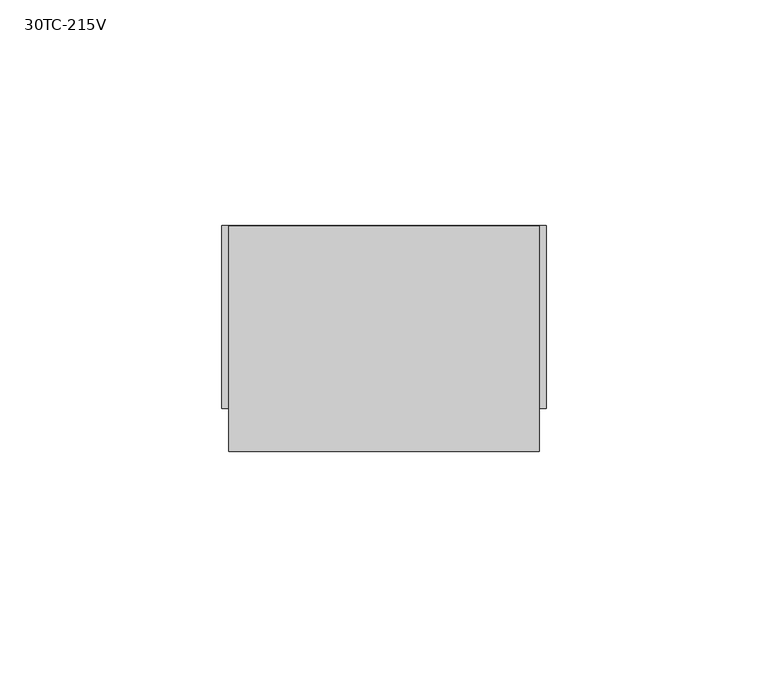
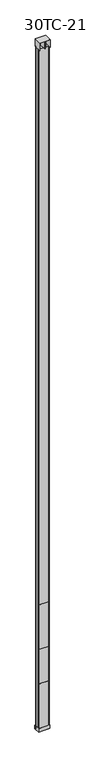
"""IFC4 building model written with IfcOpenShell, lengths in millimetres: proxy geometry, Vertical_Drop_Pole-Wiremold-Blank_Steel_Pole_Single_Compartment : 30TC-215V."""

import ifcopenshell
import ifcopenshell.guid

model = None  # the IFC model being written
_history = None  # IfcOwnerHistory: only IFC2X3 demands one
_inside = {}  # id of a spatial element -> (the spatial element, [elements in it])
_under = {}  # id of a project, library or spatial element -> (it, [spatial elements below it])
_declared = {}  # id of a project -> (the project, [libraries it declares])
_typed = {}  # id of a type object -> (the type object, [elements of that type])
_made_of = {}  # id of a material, layer set ... -> (it, [elements and type objects made of it])


def new_model(schema):
    """Start an empty IFC model of exactly this schema.

    Asked for "IFC4X3", IfcOpenShell would pick the latest addendum, in which some entities
    have other attributes; the version numbers below select the first issue.
    IFC2X3 requires an IfcOwnerHistory on every rooted entity: one is made here for all.
    """
    global model, _history
    if schema == "IFC4X3":
        model = ifcopenshell.file(schema_version=(4, 3, 0, 0))
    else:
        model = ifcopenshell.file(schema=schema)
    _inside.clear()
    _under.clear()
    _declared.clear()
    _typed.clear()
    _made_of.clear()
    _history = None
    if model.schema == "IFC2X3":
        org = make("IfcOrganization", Name="unknown")
        user = make(
            "IfcPersonAndOrganization",
            ThePerson=make("IfcPerson", FamilyName="unknown"),
            TheOrganization=org,
        )
        app = make(
            "IfcApplication",
            ApplicationDeveloper=org,
            Version="unknown",
            ApplicationFullName="unknown",
            ApplicationIdentifier="unknown",
        )
        _history = make(
            "IfcOwnerHistory",
            OwningUser=user,
            OwningApplication=app,
            ChangeAction="ADDED",
            CreationDate=0,
        )
    return model


def make(cls, **values):
    """One entity of the class cls with the attributes given. An attribute that is None is left unset."""
    return model.create_entity(
        cls, **{name: value for name, value in values.items() if value is not None}
    )


def rooted(cls, **values):
    """An entity with a GlobalId (a new one), such as an element, a storey or a relation."""
    return make(cls, GlobalId=ifcopenshell.guid.new(), OwnerHistory=_history, **values)


def si_unit(unit_type, name, prefix=None):
    """IfcSIUnit, for example si_unit("LENGTHUNIT", "METRE", prefix="MILLI")."""
    return make("IfcSIUnit", UnitType=unit_type, Prefix=prefix, Name=name)


def assignment(units):
    """IfcUnitAssignment: the units of a project."""
    return None if units is None else make("IfcUnitAssignment", Units=units)


def point(xyz):
    """IfcCartesianPoint."""
    return None if xyz is None else make("IfcCartesianPoint", Coordinates=xyz)


def direction(xyz):
    """IfcDirection."""
    return None if xyz is None else make("IfcDirection", DirectionRatios=xyz)


def frame(location, z_axis=None, x_axis=None):
    """IfcAxis2Placement3D, a coordinate frame: its origin and axes. An axis left out is left unset."""
    return make(
        "IfcAxis2Placement3D",
        Location=point(location),
        Axis=direction(z_axis),
        RefDirection=direction(x_axis),
    )


def frame_2d(location, x_axis=None):
    """IfcAxis2Placement2D, a coordinate frame in the plane: its origin and x axis."""
    return make(
        "IfcAxis2Placement2D", Location=point(location), RefDirection=direction(x_axis)
    )


def origin():
    """The frame at (0, 0, 0) with its axes left unset."""
    return frame((0.0, 0.0, 0.0))


def origin_with_axes():
    """The frame at (0, 0, 0) with the z axis (0, 0, 1) and the x axis (1, 0, 0) written out."""
    return frame((0.0, 0.0, 0.0), z_axis=(0.0, 0.0, 1.0), x_axis=(1.0, 0.0, 0.0))


def place(relative_to, where):
    """IfcLocalPlacement: puts the frame where relative to a parent placement (None: the world)."""
    return make(
        "IfcLocalPlacement", PlacementRelTo=relative_to, RelativePlacement=where
    )


def context(
    kind, dimensions, precision=None, world=None, true_north=None, identifier=None
):
    """IfcGeometricRepresentationContext, for example the 3D "Model" context."""
    return make(
        "IfcGeometricRepresentationContext",
        ContextIdentifier=identifier,
        ContextType=kind,
        CoordinateSpaceDimension=dimensions,
        Precision=precision,
        WorldCoordinateSystem=world,
        TrueNorth=true_north,
    )


def project(units=None, contexts=None):
    """IfcProject with its units and contexts."""
    return rooted(
        "IfcProject",
        Name="project",
        RepresentationContexts=contexts,
        UnitsInContext=assignment(units),
    )


def spatial(cls, under=None, at=None, **own):
    """A site, building, storey or space (cls), placed at a placement, below another one or the project."""
    s = rooted(cls, ObjectPlacement=at, **own)
    if under is not None:
        _under.setdefault(under.id(), (under, []))[1].append(s)
    return s


def polyline(points):
    """IfcPolyline through the points."""
    return make("IfcPolyline", Points=[point(p) for p in points])


def circle_curve(where, radius):
    """IfcCircle in the frame where."""
    return make("IfcCircle", Position=where, Radius=radius)


def trimmed(basis, trim1, trim2, sense, master):
    """IfcTrimmedCurve: the piece of a basis curve between two trims."""
    return make(
        "IfcTrimmedCurve",
        BasisCurve=basis,
        Trim1=trim1,
        Trim2=trim2,
        SenseAgreement=sense,
        MasterRepresentation=master,
    )


def segment(curve, same_sense, transition):
    """IfcCompositeCurveSegment."""
    return make(
        "IfcCompositeCurveSegment",
        Transition=transition,
        SameSense=same_sense,
        ParentCurve=curve,
    )


def composite_curve(segments, self_intersect=None):
    """IfcCompositeCurve: segments joined end to end."""
    return make("IfcCompositeCurve", Segments=segments, SelfIntersect=self_intersect)


def outline(outer, holes=None, kind="AREA"):
    """IfcArbitraryClosedProfileDef: a profile drawn as a closed curve; with holes, ...WithVoids."""
    if holes is None:
        return make("IfcArbitraryClosedProfileDef", ProfileType=kind, OuterCurve=outer)
    return make(
        "IfcArbitraryProfileDefWithVoids",
        ProfileType=kind,
        OuterCurve=outer,
        InnerCurves=holes,
    )


def extrude(swept, where, along, depth):
    """IfcExtrudedAreaSolid: the profile swept, set in the frame where, extruded along a direction by depth."""
    return make(
        "IfcExtrudedAreaSolid",
        SweptArea=swept,
        Position=where,
        ExtrudedDirection=direction(along),
        Depth=depth,
    )


def shape(context_of_items, identifier, shape_type, items):
    """IfcShapeRepresentation: the items that make up one representation, for example the "Body"."""
    return make(
        "IfcShapeRepresentation",
        ContextOfItems=context_of_items,
        RepresentationIdentifier=identifier,
        RepresentationType=shape_type,
        Items=items,
    )


def source(mapping_origin, context_of_items, identifier, shape_type, items):
    """IfcRepresentationMap: a shape defined once, which mapped items show again and again."""
    return make(
        "IfcRepresentationMap",
        MappingOrigin=mapping_origin,
        MappedRepresentation=shape(context_of_items, identifier, shape_type, items),
    )


def transform(
    local_origin,
    x_axis=None,
    y_axis=None,
    z_axis=None,
    scale=None,
    scale2=None,
    scale3=None,
    uniform=True,
):
    """IfcCartesianTransformationOperator3D, or its non-uniform kind. x_axis, y_axis, z_axis: its Axis1, 2, 3."""
    if uniform:
        return make(
            "IfcCartesianTransformationOperator3D",
            Axis1=direction(x_axis),
            Axis2=direction(y_axis),
            LocalOrigin=point(local_origin),
            Scale=scale,
            Axis3=direction(z_axis),
        )
    return make(
        "IfcCartesianTransformationOperator3DnonUniform",
        Axis1=direction(x_axis),
        Axis2=direction(y_axis),
        LocalOrigin=point(local_origin),
        Scale=scale,
        Axis3=direction(z_axis),
        Scale2=scale2,
        Scale3=scale3,
    )


def mapped(mapping_source, mapping_target):
    """IfcMappedItem: shows the shape of a source again, moved by a transform."""
    return make(
        "IfcMappedItem", MappingSource=mapping_source, MappingTarget=mapping_target
    )


def made_of(thing, what):
    """Note that an element or type object is made of a material, layer set ...; save() writes the relation."""
    if what is not None:
        _made_of.setdefault(what.id(), (what, []))[1].append(thing)
    return thing


def element(
    cls,
    number,
    at=None,
    inside=None,
    cuts=None,
    type_object=None,
    material=None,
    context=None,
    identifier="Body",
    shape_type=None,
    held_by="IfcProductDefinitionShape",
    body=None,
    shapes=None,
    **own,
):
    """One element of the class cls, such as IfcWall. Its Tag is "e" and its number.

    at: its placement. inside: the storey or other place that contains it. cuts: it is an
    opening in that element (IfcRelVoidsElement). A single representation is given by context,
    identifier, shape_type and body (its items); several are given by shapes. held_by: the class
    of the entity that holds the representations. save() writes the other relations.
    """
    e = rooted(cls, Tag="e%d" % number, ObjectPlacement=at, **own)
    if body is not None:
        shapes = [shape(context, identifier, shape_type, body)]
    if shapes is not None:
        e.Representation = make(held_by, Representations=shapes)
    if inside is not None:
        _inside.setdefault(inside.id(), (inside, []))[1].append(e)
    if cuts is not None:
        rooted(
            "IfcRelVoidsElement", RelatingBuildingElement=cuts, RelatedOpeningElement=e
        )
    if type_object is not None:
        _typed.setdefault(type_object.id(), (type_object, []))[1].append(e)
    return made_of(e, material)


def aggregate(whole, parts):
    """IfcRelAggregates: a whole, such as a stair, and the parts it consists of."""
    return rooted("IfcRelAggregates", RelatingObject=whole, RelatedObjects=parts)


def save(model, path):
    """Write the relations noted so far, then the file.

    IfcRelAggregates (storeys below a building ...), IfcRelContainedInSpatialStructure (elements
    in a storey), IfcRelDefinesByType, IfcRelAssociatesMaterial and IfcRelDeclares: one each for
    every whole, place, type object, material and project.
    """
    for whole, parts in _under.values():
        aggregate(whole, parts)
    for where, things in _inside.values():
        rooted(
            "IfcRelContainedInSpatialStructure",
            RelatedElements=things,
            RelatingStructure=where,
        )
    for kind, things in _typed.values():
        rooted("IfcRelDefinesByType", RelatedObjects=things, RelatingType=kind)
    for what, things in _made_of.values():
        rooted("IfcRelAssociatesMaterial", RelatedObjects=things, RelatingMaterial=what)
    for by, libraries in _declared.values():
        rooted("IfcRelDeclares", RelatingContext=by, RelatedDefinitions=libraries)
    model.write(path)


def proxy_30tc_215v_f620549f(model_context):
    return source(origin(), model_context, "Body", "SweptSolid", [
        extrude(outline(polyline([(30.9724052, -15.9657638), (-31.0275948, -15.9657638), (-31.0275948, -14.9657638), (30.9724052, -14.9657638), (30.9724052, -15.9657638)])), frame((0.0, 0.0, 567.3552083), z_axis=(0.0, 0.0, 1.0), x_axis=(1.0, 0.0, 0.0)), (0.0, 0.0, 1.0), 306.3875),
        extrude(outline(polyline([(30.9724052, -15.9657638), (-31.0275948, -15.9657638), (-31.0275948, -14.9657638), (30.9724052, -14.9657638), (30.9724052, -15.9657638)])), frame((0.0, 0.0, 23.8125), z_axis=(0.0, 0.0, 1.0), x_axis=(1.0, 0.0, 0.0)), (0.0, 0.0, 1.0), 306.3875),
        extrude(outline(polyline([(-0.8929688, -28.0704513), (-0.8929688, 22.7295487), (0.8929687, 22.7295487), (0.8929687, -28.0704513), (-0.8929688, -28.0704513)])), frame((0.0, 0.0, 4699.0), z_axis=(0.0, 0.0, 1.0), x_axis=(1.0, 0.0, 0.0)), (0.0, 0.0, 1.0), 50.8),
        extrude(outline(polyline([(-23.8969536, 21.1420487), (23.8969536, 21.1420487), (23.8969536, 19.5545487), (-23.8969536, 19.5545487), (-23.8969536, 21.1420487)])), frame((0.0, 0.0, 4672.0125), z_axis=(0.0, 0.0, 1.0), x_axis=(1.0, 0.0, 0.0)), (0.0, 0.0, 1.0), 26.9875),
        extrude(outline(polyline([(-33.3375, 22.7295487), (33.3375, 22.7295487), (33.3375, 21.1420487), (-33.3375, 21.1420487), (-33.3375, 22.7295487)])), frame((0.0, 0.0, 4699.0), z_axis=(0.0, 0.0, 1.0), x_axis=(1.0, 0.0, 0.0)), (0.0, 0.0, 1.0), 50.8),
        extrude(outline(polyline([(-34.925, -28.0704513), (-34.925, 22.7295487), (-33.3375, 22.7295487), (-33.3375, -28.0704513), (-34.925, -28.0704513)])), frame((0.0, 0.0, 4699.0), z_axis=(0.0, 0.0, 1.0), x_axis=(1.0, 0.0, 0.0)), (0.0, 0.0, 1.0), 50.8),
        extrude(outline(polyline([(33.3375, -28.0704513), (33.3375, 22.7295487), (34.925, 22.7295487), (34.925, -28.0704513), (33.3375, -28.0704513)])), frame((0.0, 0.0, 4699.0), z_axis=(0.0, 0.0, 1.0), x_axis=(1.0, 0.0, 0.0)), (0.0, 0.0, 1.0), 50.8),
        extrude(outline(polyline([(-34.925, -28.0704513), (-34.925, 22.7295487), (34.925, 22.7295487), (34.925, -28.0704513), (-34.925, -28.0704513)])), frame((0.0, 0.0, 4749.8), z_axis=(0.0, 0.0, 1.0), x_axis=(1.0, 0.0, 0.0)), (0.0, 0.0, 1.0), 1.5875),
        extrude(outline(composite_curve([segment(trimmed(circle_curve(frame_2d((30.925, 18.1342362)), 4.0), [point((30.925, 22.1342362))], [point((34.925, 18.1342362))], False, "CARTESIAN"), True, "CONTINUOUS"), segment(polyline([(34.925, 18.1342362), (34.925, -11.9657638)]), True, "CONTINUOUS"), segment(trimmed(circle_curve(frame_2d((30.925, -11.9657638)), 4.0), [point((34.925, -11.9657638))], [point((30.925, -15.9657638))], False, "CARTESIAN"), True, "CONTINUOUS"), segment(polyline([(30.925, -15.9657638), (-30.925, -15.9657638)]), True, "CONTINUOUS"), segment(trimmed(circle_curve(frame_2d((-30.925, -11.9657638)), 4.0), [point((-30.925, -15.9657638))], [point((-34.925, -11.9657638))], False, "CARTESIAN"), True, "CONTINUOUS"), segment(polyline([(-34.925, -11.9657638), (-34.925, 18.1342362)]), True, "CONTINUOUS"), segment(trimmed(circle_curve(frame_2d((-30.925, 18.1342362)), 4.0), [point((-34.925, 18.1342362))], [point((-30.925, 22.1342362))], False, "CARTESIAN"), True, "CONTINUOUS"), segment(polyline([(-30.925, 22.1342362), (30.925, 22.1342362)]), True, "CONTINUOUS")], self_intersect=False), holes=[composite_curve([segment(trimmed(circle_curve(frame_2d((-29.925, -10.9657638)), 4.0), [point((-33.925, -10.9657638))], [point((-29.925, -14.9657638))], True, "CARTESIAN"), True, "CONTINUOUS"), segment(polyline([(-29.925, -14.9657638), (29.925, -14.9657638)]), True, "CONTINUOUS"), segment(trimmed(circle_curve(frame_2d((29.925, -10.9657638)), 4.0), [point((29.925, -14.9657638))], [point((33.925, -10.9657638))], True, "CARTESIAN"), True, "CONTINUOUS"), segment(polyline([(33.925, -10.9657638), (33.925, 17.1342362)]), True, "CONTINUOUS"), segment(trimmed(circle_curve(frame_2d((29.925, 17.1342362)), 4.0), [point((33.925, 17.1342362))], [point((29.925, 21.1342362))], True, "CARTESIAN"), True, "CONTINUOUS"), segment(polyline([(29.925, 21.1342362), (-29.925, 21.1342362)]), True, "CONTINUOUS"), segment(trimmed(circle_curve(frame_2d((-29.925, 17.1342362)), 4.0), [point((-29.925, 21.1342362))], [point((-33.925, 17.1342362))], True, "CARTESIAN"), True, "CONTINUOUS"), segment(polyline([(-33.925, 17.1342362), (-33.925, -10.9657638)]), True, "CONTINUOUS")], self_intersect=False)]), origin_with_axes(), (0.0, 0.0, 1.0), 4699.0),
        extrude(outline(polyline([(-36.5125, 23.7217362), (36.5125, 23.7217362), (36.5125, -17.5532638), (-36.5125, -17.5532638), (-36.5125, 23.7217362)]), holes=[polyline([(34.925, 22.1342362), (-34.925, 22.1342362), (-34.925, -15.9657638), (34.925, -15.9657638), (34.925, 22.1342362)])]), origin_with_axes(), (0.0, 0.0, 1.0), 23.8125),
    ])


if __name__ == "__main__":
    model = new_model("IFC4")
    model_context = context("Model", 3, world=origin())
    ifc_project = project(units=[si_unit("LENGTHUNIT", "METRE", prefix="MILLI")], contexts=[model_context])
    site = spatial("IfcSite", under=ifc_project)
    building = spatial("IfcBuilding", under=site)
    placement = place(None, origin())
    proxy_30tc_215v_shape = proxy_30tc_215v_f620549f(model_context)
    element("IfcBuildingElementProxy", 1, Name="Vertical_Drop_Pole-Wiremold-Blank_Steel_Pole_Single_Compartment : 30TC-215V", ObjectType="Vertical_Drop_Pole-Wiremold-Blank_Steel_Pole_Single_Compartment : 30TC-215V", at=placement, inside=building, context=model_context, shape_type="MappedRepresentation", body=[
        mapped(proxy_30tc_215v_shape, transform((0.0, 0.0, 0.0), x_axis=(1.0, 0.0, 0.0), y_axis=(0.0, 1.0, 0.0), z_axis=(0.0, 0.0, 1.0))),
    ])
    save(model, "model.ifc")
